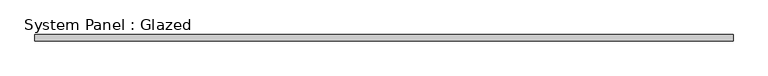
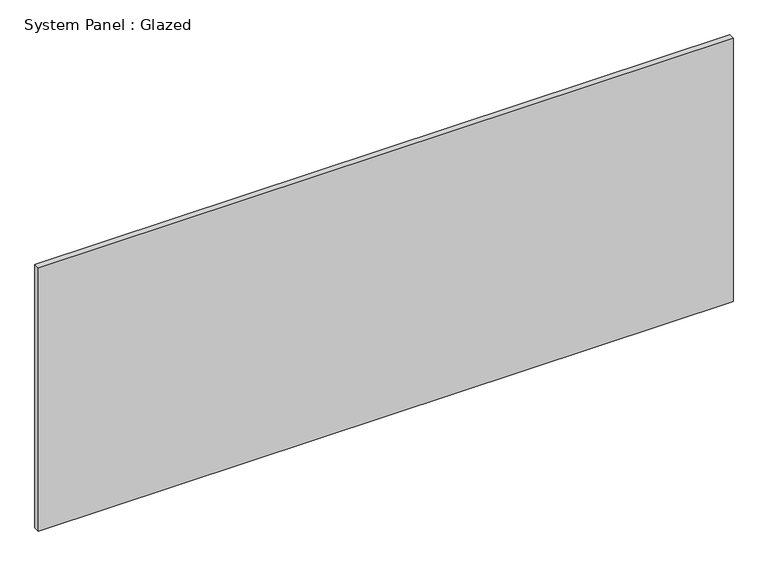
"""IFC4 building model written with IfcOpenShell, lengths in millimetres: plate geometry, System Panel : Glazed."""

from ifc_helpers import new_model, si_unit, origin, origin_with_axes, place, context, project, spatial, polyline, outline, extrude, source, transform, mapped, element, save


def system_panel_glazed_ee025bb3(model_context):
    return source(origin(), model_context, "Body", "SweptSolid", [
        extrude(outline(polyline([(1404.7802482, 24.5), (-1404.7802482, 24.5), (-1404.7802482, 49.5), (1404.7802482, 49.5), (1404.7802482, 24.5)])), origin_with_axes(), (0.0, 0.0, 1.0), 1125.0),
    ])


if __name__ == "__main__":
    model = new_model("IFC4")
    model_context = context("Model", 3, world=origin())
    ifc_project = project(units=[si_unit("LENGTHUNIT", "METRE", prefix="MILLI")], contexts=[model_context])
    site = spatial("IfcSite", under=ifc_project)
    building = spatial("IfcBuilding", under=site)
    placement = place(None, origin())
    system_panel_glazed_shape = system_panel_glazed_ee025bb3(model_context)
    element("IfcPlate", 1, ObjectType="System Panel : Glazed", at=placement, inside=building, context=model_context, shape_type="MappedRepresentation", body=[
        mapped(system_panel_glazed_shape, transform((0.0, 0.0, 0.0), x_axis=(1.0, 0.0, 0.0), y_axis=(0.0, 1.0, 0.0), z_axis=(0.0, 0.0, 1.0))),
    ])
    save(model, "model.ifc")
